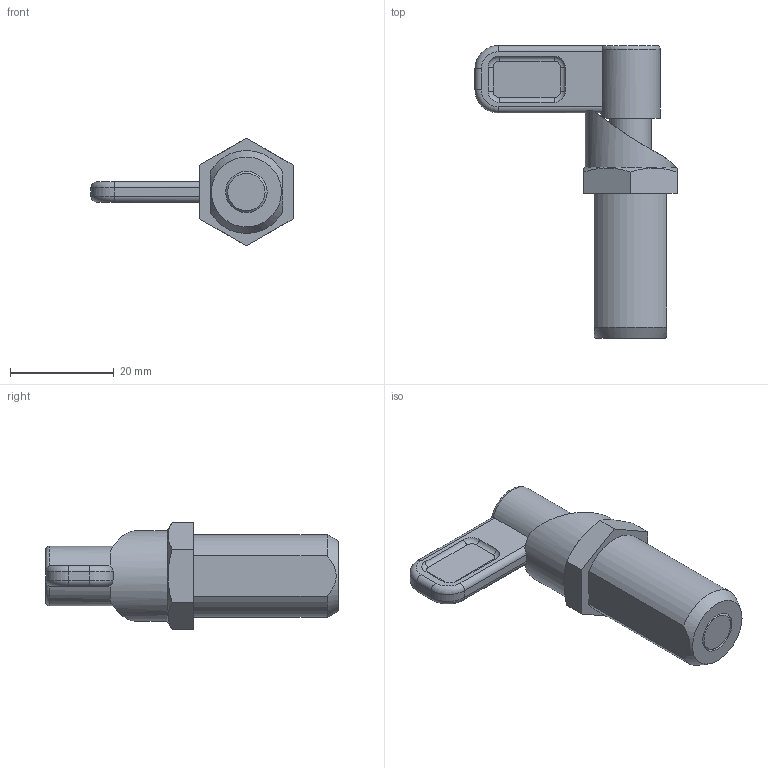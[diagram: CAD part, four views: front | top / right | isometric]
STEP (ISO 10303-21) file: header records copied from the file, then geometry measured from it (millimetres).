
FILE_DESCRIPTION( ( 'STEP AP203' ), '1' );
FILE_NAME( 'C:/Temp/Ganter_Step_05_03_2020/data/3_1/gn_612.8/gn612_8_a/Indexing plunger GN 612.8-8-M16x1,5-A (activated).stp', '2020-03-12T09:12:20', ( 'License CC BY-ND 4.0' ), ( 'CADENAS' ), ' ', 'PARTsolutions', ' ' );
FILE_SCHEMA( ( 'CONFIG_CONTROL_DESIGN' ) );
Length unit declared in the file: millimetre
Products named in the file (3): Indexing plunger GN 612.8-8-M16x1,5-A (activated); _Indexing plunger GN 612.8-8-M16x1,5-A (2)_2; _Rastriegel GN 612.8-8-M16x1,5-A (2)_1
Assembly tree (2 placements, depth 2):
  Indexing plunger GN 612.8-8-M16x1,5-A (activated)
    _Indexing plunger GN 612.8-8-M16x1,5-A (2)_2
    _Rastriegel GN 612.8-8-M16x1,5-A (2)_1
Bounding box: 39 x 56.5 x 20.78 mm (x, y, z)
Volume: 10153.2 mm3; surface area: 6139.4 mm2
Topology: 2 solids, 2 shells, 74 faces, 172 edges, 111 vertices
Faces by surface type: cylinder 31, plane 27, torus 13, cone 3
Full cylindrical faces by diameter (mm): 8 x4, 9 x2, 11.5 x1, 12.5 x1, 17.5 x1
Entity records: 2470 total; most frequent: CARTESIAN_POINT 710, DIRECTION 362, ORIENTED_EDGE 316, EDGE_CURVE 158, AXIS2_PLACEMENT_3D 152, VERTEX_POINT 108, EDGE_LOOP 96, FACE_OUTER_BOUND 82
